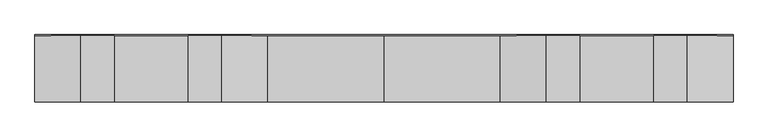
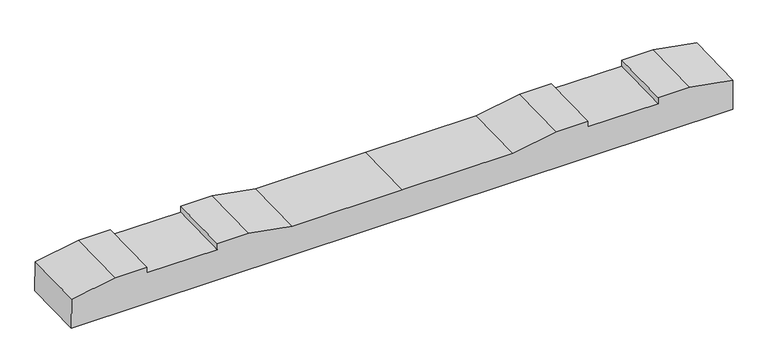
"""IFC4 building model written with IfcOpenShell, lengths in millimetres: proxy geometry, 轨枕-立面角度 : 轨枕-立面角度."""

from ifc_helpers import new_model, si_unit, frame, origin, place, context, project, spatial, polyline, outline, extrude, source, transform, mapped, element, save


def generic_models_50e4a4a2(model_context):
    return source(origin(), model_context, "Body", "SweptSolid", [
        extrude(outline(polyline([(0.0, 0.0), (2099.7669328, 0.0), (2099.7669328, -100.0206889), (1961.8834664, -124.5), (1861.8834664, -124.5), (1861.8834664, -104.5), (1637.8834664, -104.5), (1637.8834664, -124.5), (1537.8834664, -124.5), (1399.8834664, -100.0), (1049.8834664, -100.0), (699.8834664, -100.0), (561.8834664, -124.5), (461.8834664, -124.5), (461.8834664, -104.5), (237.8834664, -104.5), (237.8834664, -124.5), (137.8834664, -124.5), (0.0, -100.0206889), (0.0, 0.0)])), frame((-1049.8834664, -97.5333299, -106.8058966), z_axis=(0.0, 0.9997274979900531, 0.02334373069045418), x_axis=(1.0, 0.0, 0.0)), (0.0, 0.0, 1.0), 200.0),
    ])


if __name__ == "__main__":
    model = new_model("IFC4")
    model_context = context("Model", 3, world=origin())
    ifc_project = project(units=[si_unit("LENGTHUNIT", "METRE", prefix="MILLI")], contexts=[model_context])
    site = spatial("IfcSite", under=ifc_project)
    building = spatial("IfcBuilding", under=site)
    placement = place(None, origin())
    generic_models_shape = generic_models_50e4a4a2(model_context)
    element("IfcBuildingElementProxy", 1, Name="轨枕-立面角度 : 轨枕-立面角度", ObjectType="轨枕-立面角度 : 轨枕-立面角度", at=placement, inside=building, context=model_context, shape_type="MappedRepresentation", body=[
        mapped(generic_models_shape, transform((0.0, 0.0, 0.0), x_axis=(1.0, 0.0, 0.0), y_axis=(0.0, 1.0, 0.0), z_axis=(0.0, 0.0, 1.0))),
    ])
    save(model, "model.ifc")
